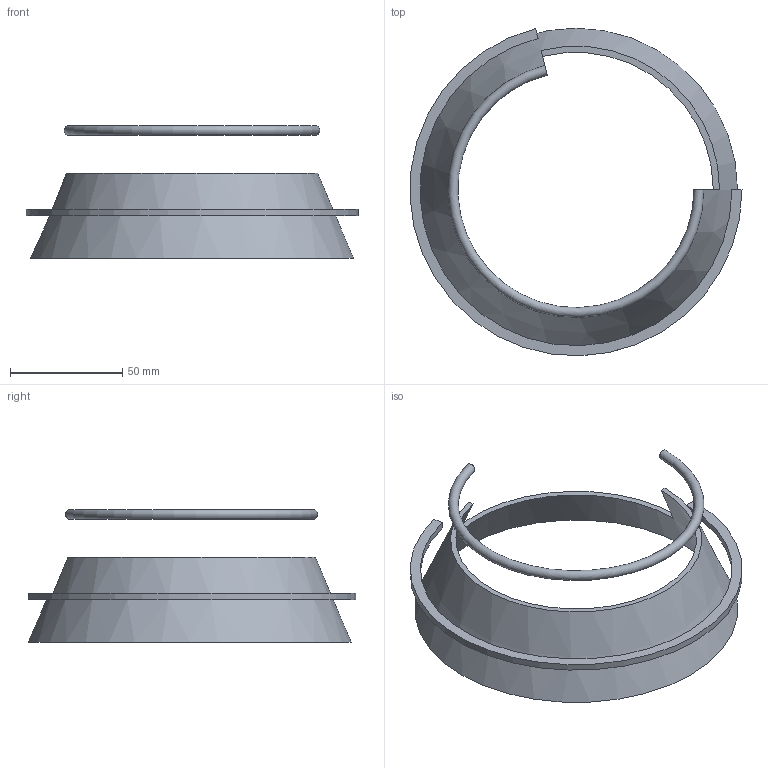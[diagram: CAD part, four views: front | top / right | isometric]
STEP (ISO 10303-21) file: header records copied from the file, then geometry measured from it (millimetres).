
FILE_DESCRIPTION(('Open CASCADE Model'),'2;1');
FILE_NAME('Open CASCADE Shape Model','2026-10-27T17:03:33',('Author'),( 'Open CASCADE'),'Open CASCADE STEP processor 8.0','build123d', 'Unknown');
FILE_SCHEMA(('AUTOMOTIVE_DESIGN { 1 0 10303 214 1 1 1 1 }'));
Length unit declared in the file: millimetre
Products named in the file (2): COMPOUND
Assembly tree (1 placements, depth 2):
  COMPOUND
    COMPOUND
Bounding box: 147.91 x 145.98 x 59.2 mm (x, y, z)
Volume: 44873.7 mm3; surface area: 38608.6 mm2
Topology: 3 solids, 3 shells, 16 faces, 31 edges, 20 vertices
Faces by surface type: plane 11, cylinder 2, cone 2, torus 1
Entity records: 830 total; most frequent: CARTESIAN_POINT 153, DIRECTION 125, ORIENTED_EDGE 62, PCURVE 62, DEFINITIONAL_REPRESENTATION 62, LINE 52, VECTOR 52, AXIS2_PLACEMENT_3D 31
